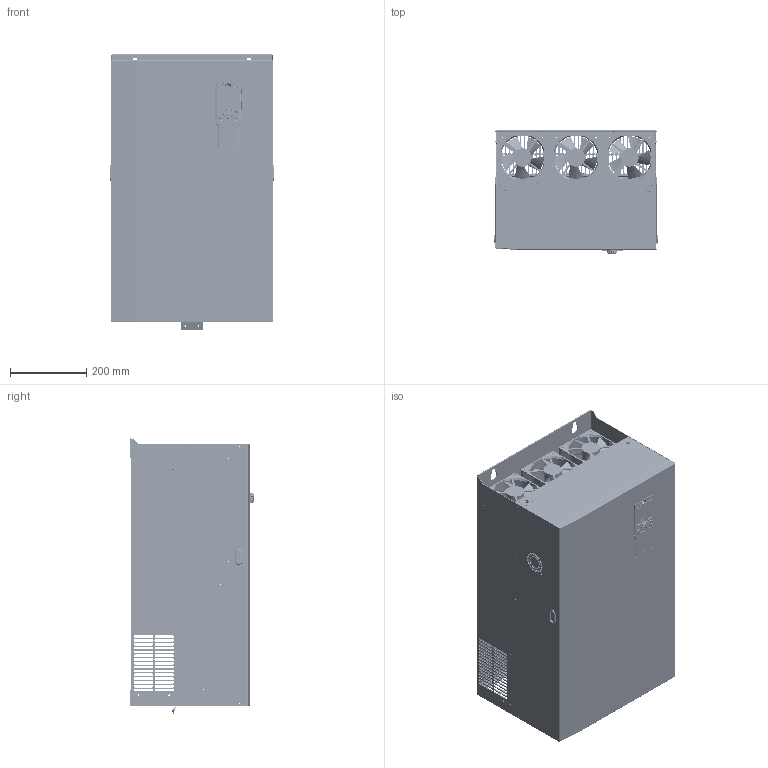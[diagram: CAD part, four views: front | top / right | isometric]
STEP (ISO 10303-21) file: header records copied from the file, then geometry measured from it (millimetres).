
FILE_DESCRIPTION((''),'2;1');
FILE_NAME('00-A8-160_ASM_66_ASM','2024-08-14T',('Administrator'),(''),'PRO/ENGINEER BY PARAMETRIC TECHNOLOGY CORPORATION, 2010280','PRO/ENGINEER BY PARAMETRIC TECHNOLOGY CORPORATION, 2010280','');
FILE_SCHEMA(('AUTOMOTIVE_DESIGN { 1 0 10303 214 1 1 1 1 }'));
Products named in the file (101): A8-160-01-01-01_39; TPS-3-10-ZC_38; TPS-4-10-ZC_38; A8-160-01-01-01_ASM_46_ASM; A8-160-01-01-02_47; BSO-M3-16-ZC_36; TPS-3-6-ZC_38; S-M4-ZC_39; NZ-M8-ZC_34; FH-M5-16-ZC_19; SO-3R5M3-26-ZC_36; A8-160-01-01-02_ASM_47_ASM; A8-160-01-01-03_19; A8-160-01-01-03_ASM_29_ASM; A8-160-01-01-04_20; A8-160-01-01-04_ASM_29_ASM; A8-160-01-01-07_14; M10_GB13681_11; A8-160-01-01-07_ASM_22_ASM; GB12617-90_4X8_30-R0_10_22; A8-160-01-01_ASM_55_ASM; A8-160-01-02_20; A8-160-01-02_ASM_29_ASM; A8-160-01-03_28; TPS-4-8-ZC_38; A8-160-01-03_ASM_33_ASM; A8-160-01-04_30; S-M5-ZC_39; A8-160-01-04_ASM_33_ASM; A8-160-01-05_30; S-M3-ZC_39; BSO-3R5M3-10-ZC_36; A8-160-01-05_ASM_40_ASM; A8-160-01-06_22; S-M6-ZC_39; A8-160-01-06_ASM_26_ASM; A8-160-01-07_28; A8-160-01-07_ASM_31_ASM; A8-37-01-05_8; A8-37-01-05_ASM_10_ASM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
Assembly tree (291 placements, depth 6):
  00-A8-160_ASM_66_ASM
    A8-160-01_ASM_60_ASM
      A8-160-01-01_ASM_55_ASM
        A8-160-01-01-01_ASM_46_ASM
          A8-160-01-01-01_39
          TPS-3-10-ZC_38  x2
          TPS-4-10-ZC_38  x2
        A8-160-01-01-02_ASM_47_ASM
          A8-160-01-01-02_47
          BSO-M3-16-ZC_36  x15
          TPS-3-6-ZC_38  x2
          S-M4-ZC_39  x26
          NZ-M8-ZC_34  x4
          FH-M5-16-ZC_19  x2
          SO-3R5M3-26-ZC_36  x6
        A8-160-01-01-03_ASM_29_ASM  x4
          A8-160-01-01-03_19
          S-M4-ZC_39
        A8-160-01-01-04_ASM_29_ASM  x2
          A8-160-01-01-04_20
          S-M4-ZC_39
        A8-160-01-01-07_ASM_22_ASM  x2
          A8-160-01-01-07_14
          M10_GB13681_11
        GB12617-90_4X8_30-R0_10_22  x50
      A8-160-01-02_ASM_29_ASM
        A8-160-01-02_20
        S-M4-ZC_39  x16
      A8-160-01-03_ASM_33_ASM
        A8-160-01-03_28
        TPS-4-8-ZC_38  x2
      A8-160-01-04_ASM_33_ASM
        A8-160-01-04_30
        S-M4-ZC_39  x2
        S-M5-ZC_39  x12
      A8-160-01-05_ASM_40_ASM
        A8-160-01-05_30
        S-M3-ZC_39  x8
        BSO-3R5M3-10-ZC_36  x4
      A8-160-01-06_ASM_26_ASM
        A8-160-01-06_22
        S-M4-ZC_39  x5
        S-M6-ZC_39  x2
      A8-160-01-07_ASM_31_ASM
        A8-160-01-07_28
        S-M4-ZC_39  x2
        S-M5-ZC_39  x6
      A8-37-01-05_ASM_10_ASM
        A8-37-01-05_8
        S-M3-ZC_39  x4
    A8-160-QJ_ASM_38_ASM
      12038_8_16  x3
      HXQ-20X42_26  x2
      PRT0003_7  x9
    A8-160-02_ASM_46_ASM
      A8-160-02-11_ASM_28_ASM
        A8-160-02-11_21
      A8-160-02-12_ASM_24_ASM
        A8-160-02-12_20
      A8-160-02-13_ASM_23_ASM
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Bounding box: 432 x 324.6 x 721.29 mm (x, y, z)
Volume: 3629095.8 mm3; surface area: 4564301 mm2
Topology: 263 solids, 284 shells, 44425 faces, 125591 edges, 85102 vertices
Faces by surface type: plane 38834, cylinder 3627, cone 1483, bspline 219, torus 214, sphere 48
Entity records: 555272 total; most frequent: CARTESIAN_POINT 93602, ORIENTED_EDGE 74704, DIRECTION 72291, EDGE_CURVE 37383, VECTOR 31913, LINE 31913, VERTEX_POINT 24568, AXIS2_PLACEMENT_3D 20189
